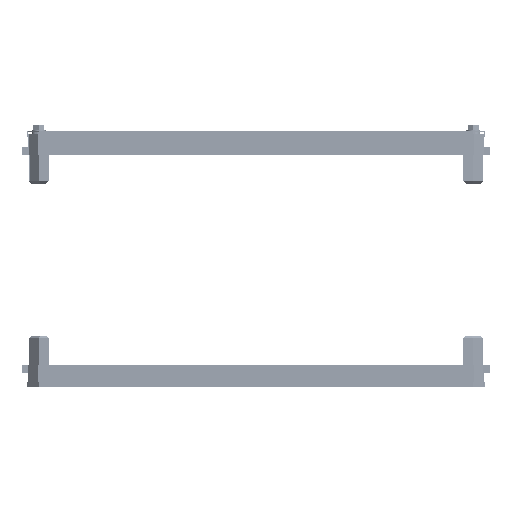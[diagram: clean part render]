
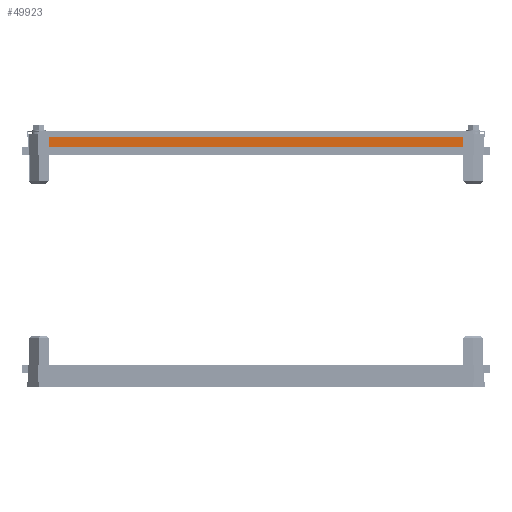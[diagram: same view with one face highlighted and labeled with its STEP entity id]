
A CAD part, left-side view. The second image highlights one B-rep face of the part: STEP entity #49923.
In plain terms, the highlighted planar face has unit normal (-1, 0, 0).
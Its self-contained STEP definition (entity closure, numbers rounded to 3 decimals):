
#1487 = LINE ( 'NONE', #45744, #163868 ) ;
#12142 = EDGE_CURVE ( 'NONE', #121085, #35394, #54883, .T. ) ;
#16450 = CARTESIAN_POINT ( 'NONE',  ( -789.55, -545.6, 430.9 ) ) ;
#22528 = ORIENTED_EDGE ( 'NONE', *, *, #62541, .F. ) ;
#28979 = FACE_OUTER_BOUND ( 'NONE', #166656, .T. ) ;
#35394 = VERTEX_POINT ( 'NONE', #38609 ) ;
#36817 = CARTESIAN_POINT ( 'NONE',  ( -789.55, 162.4, 409.7 ) ) ;
#38609 = CARTESIAN_POINT ( 'NONE',  ( -789.55, 162.4, 430.9 ) ) ;
#45744 = CARTESIAN_POINT ( 'NONE',  ( -789.55, 162.4, 408.4 ) ) ;
#49923 = ADVANCED_FACE ( 'NONE', ( #28979 ), #136524, .F. ) ;
#54883 = LINE ( 'NONE', #36817, #131749 ) ;
#60284 = DIRECTION ( 'NONE',  ( 0., -1., 0. ) ) ;
#61180 = ORIENTED_EDGE ( 'NONE', *, *, #66764, .T. ) ;
#62541 = EDGE_CURVE ( 'NONE', #178799, #121085, #1487, .T. ) ;
#62822 = DIRECTION ( 'NONE',  ( 0., 1., 0. ) ) ;
#65984 = VERTEX_POINT ( 'NONE', #16450 ) ;
#66764 = EDGE_CURVE ( 'NONE', #178799, #65984, #165835, .T. ) ;
#67195 = VECTOR ( 'NONE', #60284, 1000. ) ;
#67985 = DIRECTION ( 'NONE',  ( 0., 0., 1. ) ) ;
#89340 = DIRECTION ( 'NONE',  ( 0., -1., 0. ) ) ;
#94543 = ORIENTED_EDGE ( 'NONE', *, *, #155901, .F. ) ;
#106491 = DIRECTION ( 'NONE',  ( 0., 0., 1. ) ) ;
#108396 = CARTESIAN_POINT ( 'NONE',  ( -789.55, 162.4, 409.7 ) ) ;
#121085 = VERTEX_POINT ( 'NONE', #159169 ) ;
#131749 = VECTOR ( 'NONE', #67985, 1000. ) ;
#134665 = LINE ( 'NONE', #196061, #67195 ) ;
#135625 = CARTESIAN_POINT ( 'NONE',  ( -789.55, -545.6, 409.7 ) ) ;
#136524 = PLANE ( 'NONE',  #161343 ) ;
#153647 = DIRECTION ( 'NONE',  ( 1., 0., 0. ) ) ;
#155901 = EDGE_CURVE ( 'NONE', #35394, #65984, #134665, .T. ) ;
#159169 = CARTESIAN_POINT ( 'NONE',  ( -789.55, 162.4, 408.4 ) ) ;
#161343 = AXIS2_PLACEMENT_3D ( 'NONE', #108396, #153647, #89340 ) ;
#161684 = CARTESIAN_POINT ( 'NONE',  ( -789.55, -545.6, 408.4 ) ) ;
#163868 = VECTOR ( 'NONE', #62822, 1000. ) ;
#164713 = VECTOR ( 'NONE', #106491, 1000. ) ;
#165835 = LINE ( 'NONE', #135625, #164713 ) ;
#166656 = EDGE_LOOP ( 'NONE', ( #61180, #94543, #194453, #22528 ) ) ;
#178799 = VERTEX_POINT ( 'NONE', #161684 ) ;
#194453 = ORIENTED_EDGE ( 'NONE', *, *, #12142, .F. ) ;
#196061 = CARTESIAN_POINT ( 'NONE',  ( -789.55, 162.4, 430.9 ) ) ;
